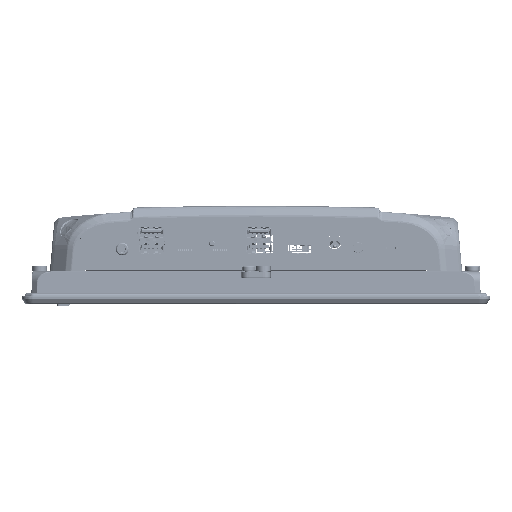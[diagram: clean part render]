
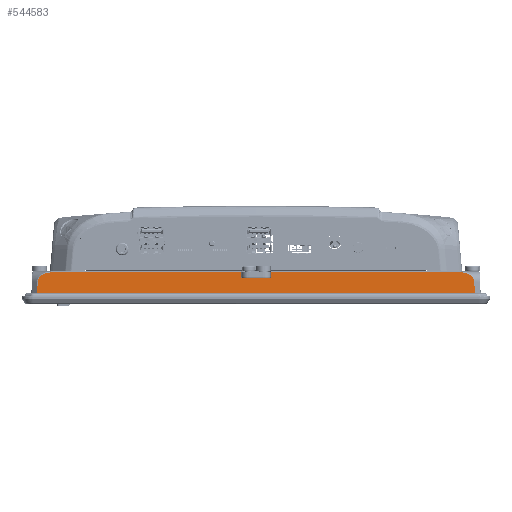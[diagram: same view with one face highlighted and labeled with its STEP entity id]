
A CAD part, front view. The second image highlights one B-rep face of the part: STEP entity #544583.
In plain terms, the highlighted planar face has unit normal (0, -0.999, 0.035).
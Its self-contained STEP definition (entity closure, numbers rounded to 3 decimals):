
#11229 = LINE ( 'NONE', #390512, #362950 ) ;
#11894 = VECTOR ( 'NONE', #348167, 1000. ) ;
#15478 = VERTEX_POINT ( 'NONE', #271358 ) ;
#35901 = EDGE_LOOP ( 'NONE', ( #323578, #295348, #310115, #397421, #357364, #180872, #456512, #334814, #540017, #345903 ) ) ;
#38449 = VECTOR ( 'NONE', #548376, 1000. ) ;
#41700 = LINE ( 'NONE', #505858, #480027 ) ;
#79209 = EDGE_CURVE ( 'NONE', #15478, #91961, #480164, .T. ) ;
#79656 = EDGE_CURVE ( 'NONE', #91961, #517915, #543313, .T. ) ;
#85870 = CARTESIAN_POINT ( 'NONE',  ( -80.45, -98.322, 263.032 ) ) ;
#87223 = VECTOR ( 'NONE', #204927, 1000. ) ;
#91961 = VERTEX_POINT ( 'NONE', #111171 ) ;
#96467 = DIRECTION ( 'NONE',  ( -1., 0., 0. ) ) ;
#96856 = CARTESIAN_POINT ( 'NONE',  ( 31.076, -98.399, 260.821 ) ) ;
#99369 = FACE_OUTER_BOUND ( 'NONE', #35901, .T. ) ;
#105560 = CARTESIAN_POINT ( 'NONE',  ( 31.076, -98.399, 260.821 ) ) ;
#111171 = CARTESIAN_POINT ( 'NONE',  ( -96.95, -98.216, 266.049 ) ) ;
#115735 = CARTESIAN_POINT ( 'NONE',  ( -208.731, -98.671, 253.032 ) ) ;
#180872 = ORIENTED_EDGE ( 'NONE', *, *, #224990, .T. ) ;
#185981 = DIRECTION ( 'NONE',  ( 0., 0.999, -0.035 ) ) ;
#196217 = LINE ( 'NONE', #410068, #38449 ) ;
#200126 = VECTOR ( 'NONE', #224281, 1000. ) ;
#204927 = DIRECTION ( 'NONE',  ( -0.035, 0.035, 0.999 ) ) ;
#218897 = CARTESIAN_POINT ( 'NONE',  ( -80.45, -98.216, 266.049 ) ) ;
#219706 = VERTEX_POINT ( 'NONE', #557310 ) ;
#222671 = EDGE_CURVE ( 'NONE', #550084, #570233, #290166, .T. ) ;
#224281 = DIRECTION ( 'NONE',  ( 0., 0.035, 0.999 ) ) ;
#224990 = EDGE_CURVE ( 'NONE', #517915, #550084, #230598, .T. ) ;
#229472 = VERTEX_POINT ( 'NONE', #361861 ) ;
#230598 =( BOUNDED_CURVE ( )  B_SPLINE_CURVE ( 3, ( #267936, #502534, #356172, #586774 ),
 .UNSPECIFIED., .F., .F. ) 
 B_SPLINE_CURVE_WITH_KNOTS ( ( 4, 4 ),
 ( 4.762, 6.283 ),
 .UNSPECIFIED. ) 
 CURVE ( )  GEOMETRIC_REPRESENTATION_ITEM ( )  RATIONAL_B_SPLINE_CURVE ( ( 1., 0.816, 0.816, 1. ) ) 
 REPRESENTATION_ITEM ( '' )  );
#252091 = CARTESIAN_POINT ( 'NONE',  ( 27.871, -98.216, 266.049 ) ) ;
#267936 = CARTESIAN_POINT ( 'NONE',  ( -200.868, -98.216, 266.049 ) ) ;
#271358 = CARTESIAN_POINT ( 'NONE',  ( -96.95, -98.322, 263.032 ) ) ;
#273936 = LINE ( 'NONE', #568081, #87223 ) ;
#276061 = CARTESIAN_POINT ( 'NONE',  ( -200.868, -98.216, 266.049 ) ) ;
#283236 = VECTOR ( 'NONE', #569709, 1000. ) ;
#285951 = EDGE_CURVE ( 'NONE', #514804, #229472, #509935, .T. ) ;
#290166 = LINE ( 'NONE', #573660, #283236 ) ;
#290431 = CARTESIAN_POINT ( 'NONE',  ( 30.968, -98.291, 263.914 ) ) ;
#292376 = CARTESIAN_POINT ( 'NONE',  ( 23.494, -98.216, 266.049 ) ) ;
#295348 = ORIENTED_EDGE ( 'NONE', *, *, #337136, .T. ) ;
#306971 = VERTEX_POINT ( 'NONE', #85870 ) ;
#308658 = CARTESIAN_POINT ( 'NONE',  ( -96.95, -98.671, 253.032 ) ) ;
#310115 = ORIENTED_EDGE ( 'NONE', *, *, #521300, .T. ) ;
#315336 = DIRECTION ( 'NONE',  ( 0., -0.035, -0.999 ) ) ;
#323578 = ORIENTED_EDGE ( 'NONE', *, *, #484782, .T. ) ;
#334814 = ORIENTED_EDGE ( 'NONE', *, *, #583887, .T. ) ;
#337136 = EDGE_CURVE ( 'NONE', #503035, #306971, #41700, .T. ) ;
#345903 = ORIENTED_EDGE ( 'NONE', *, *, #285951, .T. ) ;
#348167 = DIRECTION ( 'NONE',  ( -1., 0., 0. ) ) ;
#355978 = CARTESIAN_POINT ( 'NONE',  ( -200.385, -98.216, 266.049 ) ) ;
#356172 = CARTESIAN_POINT ( 'NONE',  ( -208.351, -98.291, 263.914 ) ) ;
#357364 = ORIENTED_EDGE ( 'NONE', *, *, #79656, .T. ) ;
#361861 = CARTESIAN_POINT ( 'NONE',  ( 23.494, -98.216, 266.049 ) ) ;
#362950 = VECTOR ( 'NONE', #584831, 1000. ) ;
#374167 = AXIS2_PLACEMENT_3D ( 'NONE', #549249, #185981, #501177 ) ;
#390512 = CARTESIAN_POINT ( 'NONE',  ( 34.557, -98.322, 263.032 ) ) ;
#397421 = ORIENTED_EDGE ( 'NONE', *, *, #79209, .T. ) ;
#410068 = CARTESIAN_POINT ( 'NONE',  ( 34.557, -98.671, 253.032 ) ) ;
#434847 = VECTOR ( 'NONE', #96467, 1000. ) ;
#456512 = ORIENTED_EDGE ( 'NONE', *, *, #222671, .T. ) ;
#480027 = VECTOR ( 'NONE', #315336, 1000. ) ;
#480164 = LINE ( 'NONE', #308658, #200126 ) ;
#484782 = EDGE_CURVE ( 'NONE', #229472, #503035, #485079, .T. ) ;
#485079 = LINE ( 'NONE', #548157, #434847 ) ;
#501177 = DIRECTION ( 'NONE',  ( -1., 0., 0. ) ) ;
#502534 = CARTESIAN_POINT ( 'NONE',  ( -205.251, -98.216, 266.049 ) ) ;
#503035 = VERTEX_POINT ( 'NONE', #218897 ) ;
#505858 = CARTESIAN_POINT ( 'NONE',  ( -80.45, -98.671, 253.032 ) ) ;
#509935 =( BOUNDED_CURVE ( )  B_SPLINE_CURVE ( 3, ( #105560, #290431, #252091, #292376 ),
 .UNSPECIFIED., .F., .F. ) 
 B_SPLINE_CURVE_WITH_KNOTS ( ( 4, 4 ),
 ( 3.142, 4.663 ),
 .UNSPECIFIED. ) 
 CURVE ( )  GEOMETRIC_REPRESENTATION_ITEM ( )  RATIONAL_B_SPLINE_CURVE ( ( 1., 0.816, 0.816, 1. ) ) 
 REPRESENTATION_ITEM ( '' )  );
#514804 = VERTEX_POINT ( 'NONE', #96856 ) ;
#517915 = VERTEX_POINT ( 'NONE', #276061 ) ;
#521300 = EDGE_CURVE ( 'NONE', #306971, #15478, #11229, .T. ) ;
#540017 = ORIENTED_EDGE ( 'NONE', *, *, #555077, .T. ) ;
#543313 = LINE ( 'NONE', #355978, #11894 ) ;
#544583 = ADVANCED_FACE ( 'NONE', ( #99369 ), #593400, .F. ) ;
#548157 = CARTESIAN_POINT ( 'NONE',  ( -200.385, -98.216, 266.049 ) ) ;
#548376 = DIRECTION ( 'NONE',  ( 1., 0., 0. ) ) ;
#549249 = CARTESIAN_POINT ( 'NONE',  ( 34.557, -98.671, 253.032 ) ) ;
#550084 = VERTEX_POINT ( 'NONE', #554111 ) ;
#554111 = CARTESIAN_POINT ( 'NONE',  ( -208.459, -98.399, 260.821 ) ) ;
#555077 = EDGE_CURVE ( 'NONE', #219706, #514804, #273936, .T. ) ;
#557310 = CARTESIAN_POINT ( 'NONE',  ( 31.348, -98.671, 253.032 ) ) ;
#568081 = CARTESIAN_POINT ( 'NONE',  ( 31.076, -98.399, 260.82 ) ) ;
#569709 = DIRECTION ( 'NONE',  ( -0.035, -0.035, -0.999 ) ) ;
#570233 = VERTEX_POINT ( 'NONE', #115735 ) ;
#573660 = CARTESIAN_POINT ( 'NONE',  ( -208.731, -98.671, 253.025 ) ) ;
#583887 = EDGE_CURVE ( 'NONE', #570233, #219706, #196217, .T. ) ;
#584831 = DIRECTION ( 'NONE',  ( -1., 0., 0. ) ) ;
#586774 = CARTESIAN_POINT ( 'NONE',  ( -208.459, -98.399, 260.821 ) ) ;
#593400 = PLANE ( 'NONE',  #374167 ) ;
